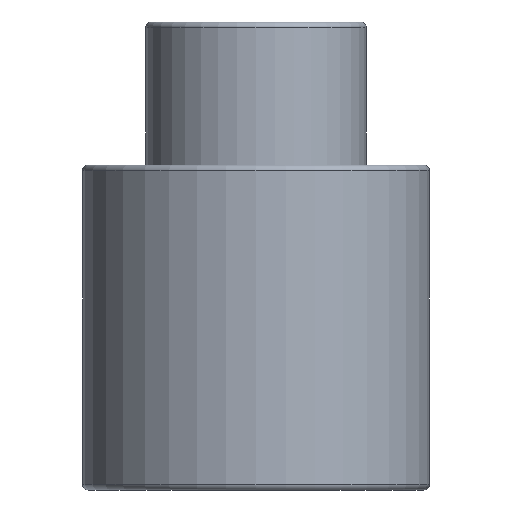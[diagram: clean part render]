
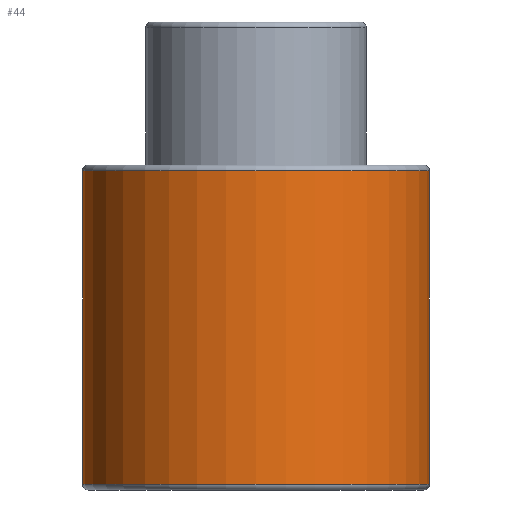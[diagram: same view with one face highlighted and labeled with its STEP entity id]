
A CAD part, front view. The second image highlights one B-rep face of the part: STEP entity #44.
In plain terms, the highlighted cylindrical face has radius 31.5 mm (diameter 63 mm), a full revolution.
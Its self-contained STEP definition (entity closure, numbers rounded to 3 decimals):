
#44=ADVANCED_FACE('',(#60,#61),#56,.T.);
#56=CYLINDRICAL_SURFACE('',#166,31.5);
#60=FACE_BOUND('',#84,.T.);
#61=FACE_BOUND('',#85,.T.);
#84=EDGE_LOOP('',(#106));
#85=EDGE_LOOP('',(#107));
#106=ORIENTED_EDGE('',*,*,#141,.F.);
#107=ORIENTED_EDGE('',*,*,#142,.T.);
#128=VERTEX_POINT('',#237);
#129=VERTEX_POINT('',#239);
#141=EDGE_CURVE('',#128,#128,#152,.T.);
#142=EDGE_CURVE('',#129,#129,#153,.T.);
#152=CIRCLE('',#164,31.5);
#153=CIRCLE('',#165,31.5);
#164=AXIS2_PLACEMENT_3D('',#236,#189,#190);
#165=AXIS2_PLACEMENT_3D('',#238,#191,#192);
#166=AXIS2_PLACEMENT_3D('',#240,#193,#194);
#189=DIRECTION('',(0.,0.,-1.));
#190=DIRECTION('',(-1.,0.,0.));
#191=DIRECTION('',(0.,0.,-1.));
#192=DIRECTION('',(-1.,0.,0.));
#193=DIRECTION('',(0.,0.,-1.));
#194=DIRECTION('',(-1.,0.,0.));
#236=CARTESIAN_POINT('',(0.,0.,1.));
#237=CARTESIAN_POINT('',(-31.5,0.,1.));
#238=CARTESIAN_POINT('',(0.,0.,58.));
#239=CARTESIAN_POINT('',(-31.5,0.,58.));
#240=CARTESIAN_POINT('',(0.,0.,0.));
